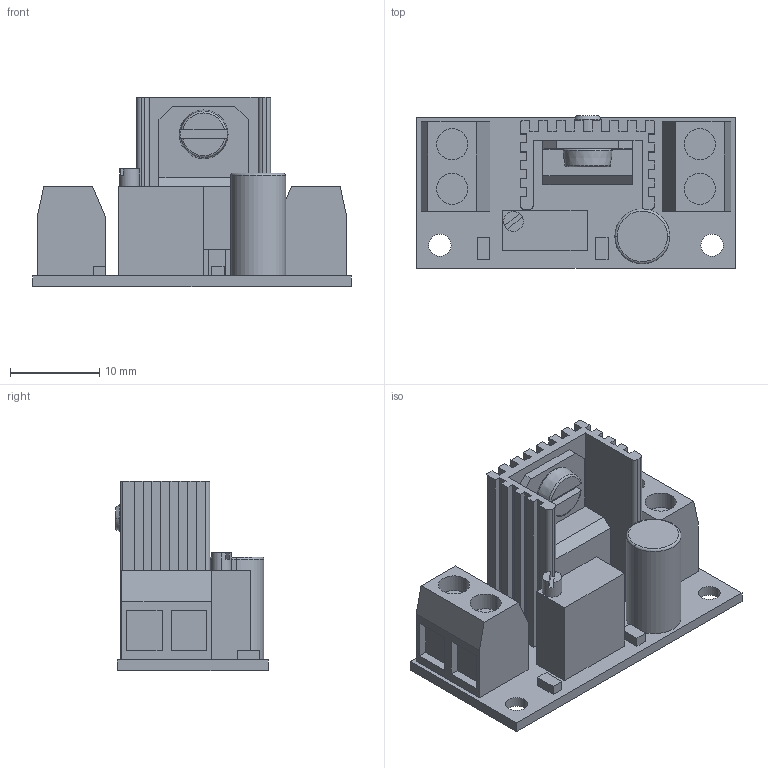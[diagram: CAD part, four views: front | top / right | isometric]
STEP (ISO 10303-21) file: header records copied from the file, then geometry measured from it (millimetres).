
FILE_DESCRIPTION(('CATIA V5 STEP Exchange'),'2;1');
FILE_NAME('X:\XDrive\---CAD---\--- Elektronik ---\Spannungsregler_M-SD-LM317.stp','2023-03-31T15:48:21+00:00',('none'),('none'),'CATIA Version 5 Release 19 SP 2 (IN-10)','CATIA V5 STEP AP203','none');
FILE_SCHEMA(('CONFIG_CONTROL_DESIGN'));
Length unit declared in the file: millimetre
Products named in the file (1): Spannungsregler_M-SD-LM317
Bounding box: 35.7 x 17.1 x 21.2 mm (x, y, z)
Volume: 4143.9 mm3; surface area: 5532.8 mm2
Topology: 9 solids, 9 shells, 220 faces, 557 edges, 369 vertices
Faces by surface type: plane 184, cylinder 26, torus 6, cone 4
Entity records: 6130 total; most frequent: CARTESIAN_POINT 1140, ORIENTED_EDGE 1116, DIRECTION 815, EDGE_CURVE 557, VECTOR 463, LINE 463, VERTEX_POINT 369, EDGE_LOOP 238
